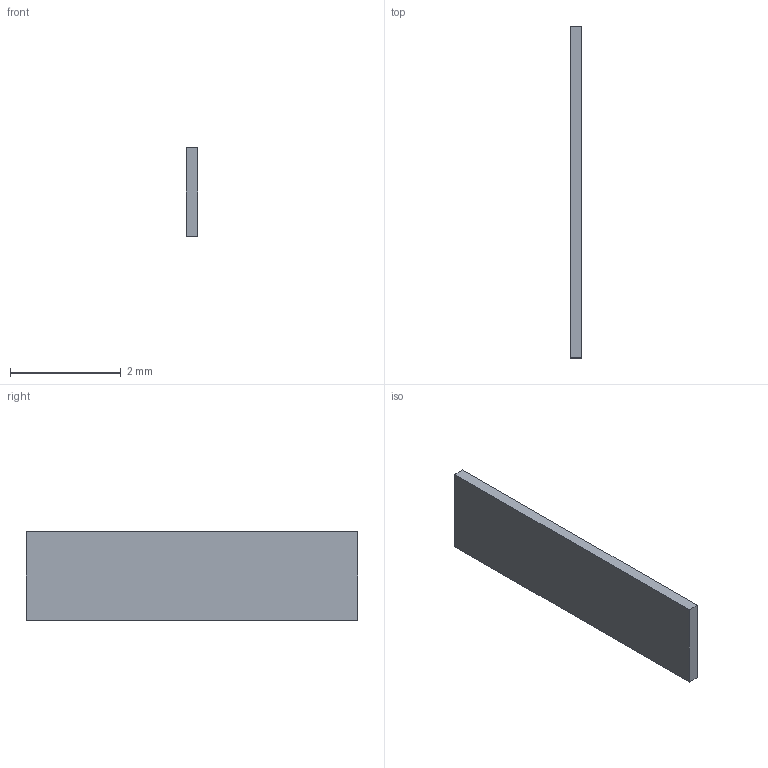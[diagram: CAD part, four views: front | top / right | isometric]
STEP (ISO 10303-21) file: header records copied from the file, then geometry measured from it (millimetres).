
FILE_DESCRIPTION(('Open CASCADE Model'),'2;1');
FILE_NAME('C27_R2_Rim_Grip_Pad_Left_Lower_FREE_STATE', '2026-09-10T02:58:45',('Author'),('Open CASCADE'), 'Open CASCADE STEP processor 7.9','build123d','Unknown');
FILE_SCHEMA(('AUTOMOTIVE_DESIGN { 1 0 10303 214 1 1 1 1 }'));
Length unit declared in the file: millimetre
Products named in the file (1): C27_R2_Rim_Grip_Pad_Left_Lower_FREE_STATE
Bounding box: 0.2 x 6 x 1.6 mm (x, y, z)
Volume: 1.9 mm3; surface area: 22.2 mm2
Topology: 1 solids, 1 shells, 6 faces, 12 edges, 8 vertices
Faces by surface type: plane 6
Entity records: 333 total; most frequent: CARTESIAN_POINT 51, DIRECTION 50, LINE 36, VECTOR 36, ORIENTED_EDGE 24, PCURVE 24, DEFINITIONAL_REPRESENTATION 24, EDGE_CURVE 12
